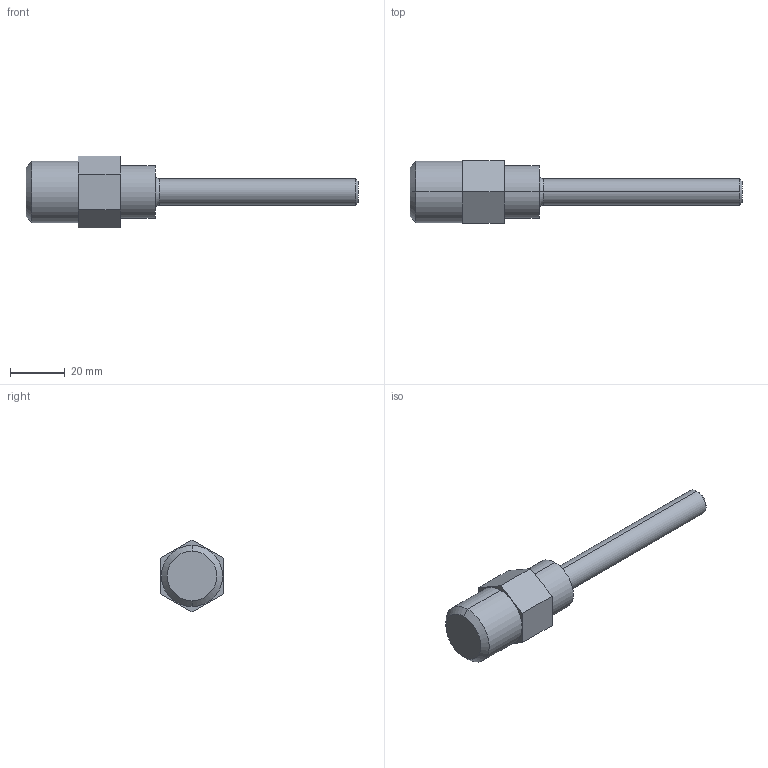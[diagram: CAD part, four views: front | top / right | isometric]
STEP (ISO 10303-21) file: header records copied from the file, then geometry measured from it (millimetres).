
FILE_DESCRIPTION (( 'STEP AP214' ), '1' );
FILE_NAME ('Fitting Tubeout 06.STEP', '2012-09-26T21:31:05', ( '' ), ( '' ), 'SwSTEP 2.0', 'SolidWorks 2012', '' );
FILE_SCHEMA (( 'AUTOMOTIVE_DESIGN' ));
Length unit declared in the file: inch
Products named in the file (1): Fitting Tubeout 06
Bounding box: 120.8 x 22.66 x 26.16 mm (x, y, z)
Volume: 22917.2 mm3; surface area: 6258.7 mm2
Topology: 1 solids, 1 shells, 23 faces, 48 edges, 30 vertices
Faces by surface type: plane 11, cylinder 6, cone 4, torus 2
Entity records: 693 total; most frequent: DIRECTION 116, CARTESIAN_POINT 102, ORIENTED_EDGE 96, EDGE_CURVE 48, AXIS2_PLACEMENT_3D 44, VERTEX_POINT 30, LINE 28, VECTOR 28
